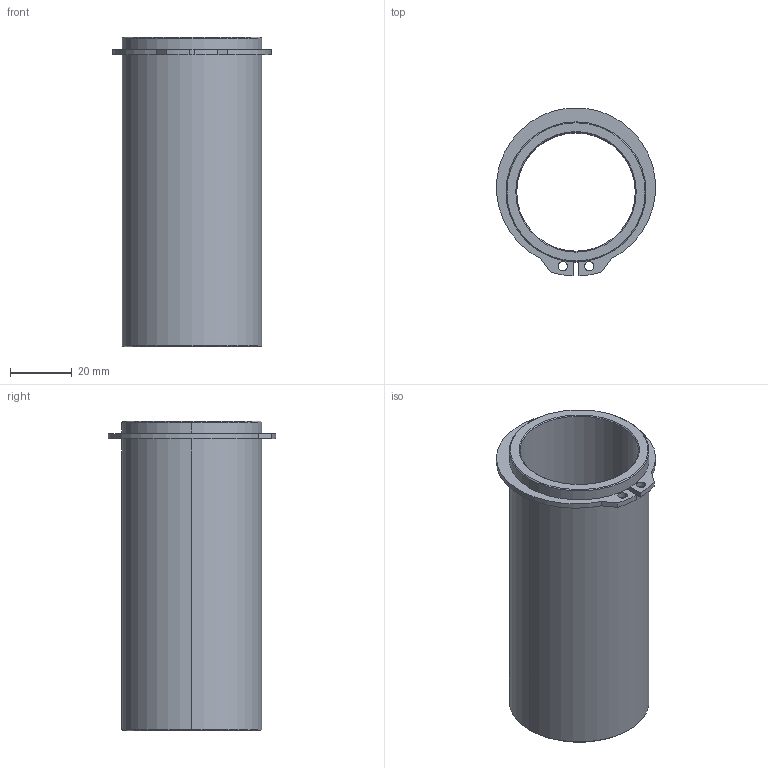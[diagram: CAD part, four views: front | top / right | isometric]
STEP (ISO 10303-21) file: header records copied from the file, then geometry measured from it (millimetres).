
FILE_DESCRIPTION((''),'2;1');
FILE_NAME('C13_038_100.stp','2008-12-17T15:26:24',(''),(''),'Mechanical Desktop 2009','Mechanical Desktop 2009',', , ');
FILE_SCHEMA(('CONFIG_CONTROL_DESIGN'));
Length unit declared in the file: millimetre
Products named in the file (2): Product; blmdl1
Assembly tree (1 placements, depth 2):
  Product
    blmdl1
Bounding box: 51.33 x 54.26 x 100 mm (x, y, z)
Volume: 46154.9 mm3; surface area: 29176.7 mm2
Topology: 2 solids, 2 shells, 34 faces, 76 edges, 48 vertices
Faces by surface type: cylinder 16, plane 10, cone 8
Entity records: 1075 total; most frequent: DIRECTION 188, CARTESIAN_POINT 160, ORIENTED_EDGE 152, AXIS2_PLACEMENT_3D 76, EDGE_CURVE 76, VERTEX_POINT 48, EDGE_LOOP 42, CIRCLE 40
